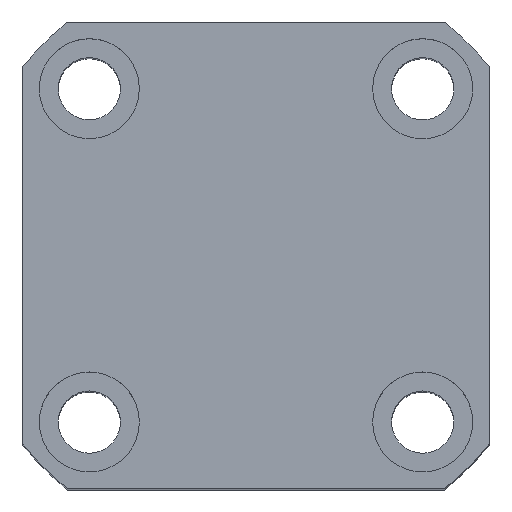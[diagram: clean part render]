
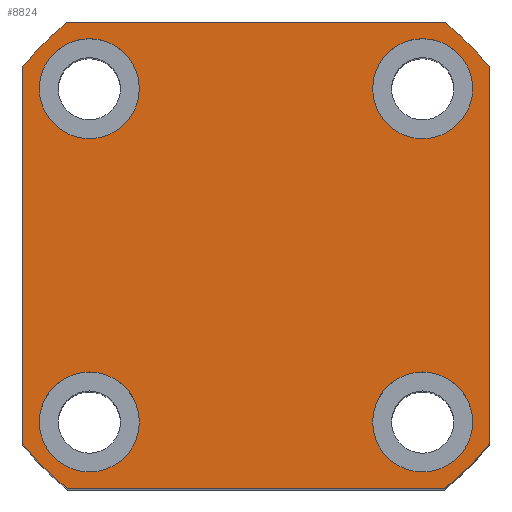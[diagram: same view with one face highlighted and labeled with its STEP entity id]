
A CAD part, top view. The second image highlights one B-rep face of the part: STEP entity #8824.
In plain terms, the highlighted planar face has unit normal (0, 0, 1).
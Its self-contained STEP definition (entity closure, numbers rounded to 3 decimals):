
#8 = ORIENTED_EDGE ( 'NONE', *, *, #11864, .T. ) ;
#24 = EDGE_LOOP ( 'NONE', ( #3933, #10117 ) ) ;
#28 = VERTEX_POINT ( 'NONE', #1340 ) ;
#86 = AXIS2_PLACEMENT_3D ( 'NONE', #7023, #567, #8080 ) ;
#204 = ORIENTED_EDGE ( 'NONE', *, *, #1187, .T. ) ;
#313 = DIRECTION ( 'NONE',  ( 0., 0., 1. ) ) ;
#316 = AXIS2_PLACEMENT_3D ( 'NONE', #5305, #12759, #6392 ) ;
#535 = CIRCLE ( 'NONE', #6977, 4.5 ) ;
#567 = DIRECTION ( 'NONE',  ( 0., 0., 1. ) ) ;
#621 = DIRECTION ( 'NONE',  ( 0., 1., 0. ) ) ;
#679 = ORIENTED_EDGE ( 'NONE', *, *, #7170, .T. ) ;
#691 = DIRECTION ( 'NONE',  ( 0., 0., 1. ) ) ;
#863 = EDGE_CURVE ( 'NONE', #12914, #13215, #13867, .T. ) ;
#1187 = EDGE_CURVE ( 'NONE', #9722, #4877, #12178, .T. ) ;
#1231 = ORIENTED_EDGE ( 'NONE', *, *, #13075, .T. ) ;
#1266 = DIRECTION ( 'NONE',  ( -1., 0., 0. ) ) ;
#1340 = CARTESIAN_POINT ( 'NONE',  ( -10.5, -14.998, 68. ) ) ;
#1438 = FACE_OUTER_BOUND ( 'NONE', #9782, .T. ) ;
#1549 = VERTEX_POINT ( 'NONE', #8845 ) ;
#1927 = LINE ( 'NONE', #13645, #7319 ) ;
#2081 = ORIENTED_EDGE ( 'NONE', *, *, #5208, .F. ) ;
#2184 = CARTESIAN_POINT ( 'NONE',  ( -21., 16.971, 68. ) ) ;
#2223 = CARTESIAN_POINT ( 'NONE',  ( 0., 0., 68. ) ) ;
#2485 = CARTESIAN_POINT ( 'NONE',  ( 0., 0., 68. ) ) ;
#2542 = AXIS2_PLACEMENT_3D ( 'NONE', #2223, #9726, #3312 ) ;
#2551 = EDGE_LOOP ( 'NONE', ( #2081, #3119 ) ) ;
#2568 = LINE ( 'NONE', #10304, #5124 ) ;
#2573 = ORIENTED_EDGE ( 'NONE', *, *, #6192, .F. ) ;
#2576 = PLANE ( 'NONE',  #4696 ) ;
#2617 = CARTESIAN_POINT ( 'NONE',  ( -21., 21., 68. ) ) ;
#2773 = CIRCLE ( 'NONE', #4522, 4.5 ) ;
#2854 = ORIENTED_EDGE ( 'NONE', *, *, #10016, .T. ) ;
#2883 = VERTEX_POINT ( 'NONE', #3992 ) ;
#3042 = EDGE_CURVE ( 'NONE', #28, #4852, #3468, .T. ) ;
#3119 = ORIENTED_EDGE ( 'NONE', *, *, #13334, .F. ) ;
#3310 = EDGE_CURVE ( 'NONE', #6309, #9722, #10697, .T. ) ;
#3312 = DIRECTION ( 'NONE',  ( 1., 0., 0. ) ) ;
#3432 = VECTOR ( 'NONE', #6403, 1000. ) ;
#3468 = CIRCLE ( 'NONE', #316, 4.5 ) ;
#3556 = DIRECTION ( 'NONE',  ( 1., 0., 0. ) ) ;
#3585 = ORIENTED_EDGE ( 'NONE', *, *, #3042, .F. ) ;
#3646 = CARTESIAN_POINT ( 'NONE',  ( 0., 0., 68. ) ) ;
#3713 = DIRECTION ( 'NONE',  ( 0., 0., 1. ) ) ;
#3797 = AXIS2_PLACEMENT_3D ( 'NONE', #11501, #5103, #12553 ) ;
#3912 = CARTESIAN_POINT ( 'NONE',  ( 0., 0., 68. ) ) ;
#3933 = ORIENTED_EDGE ( 'NONE', *, *, #863, .F. ) ;
#3992 = CARTESIAN_POINT ( 'NONE',  ( 10.5, 15., 68. ) ) ;
#4056 = DIRECTION ( 'NONE',  ( 1., 0., 0. ) ) ;
#4248 = DIRECTION ( 'NONE',  ( 0., 0., 1. ) ) ;
#4355 = FACE_BOUND ( 'NONE', #5262, .T. ) ;
#4379 = CIRCLE ( 'NONE', #5071, 27. ) ;
#4433 = CARTESIAN_POINT ( 'NONE',  ( -21., -16.971, 68. ) ) ;
#4522 = AXIS2_PLACEMENT_3D ( 'NONE', #6233, #13671, #7313 ) ;
#4696 = AXIS2_PLACEMENT_3D ( 'NONE', #3646, #11157, #4743 ) ;
#4743 = DIRECTION ( 'NONE',  ( 1., 0., 0. ) ) ;
#4852 = VERTEX_POINT ( 'NONE', #13348 ) ;
#4877 = VERTEX_POINT ( 'NONE', #8120 ) ;
#4909 = VERTEX_POINT ( 'NONE', #5093 ) ;
#4997 = DIRECTION ( 'NONE',  ( 1., 0., 0. ) ) ;
#5071 = AXIS2_PLACEMENT_3D ( 'NONE', #3912, #11398, #4997 ) ;
#5093 = CARTESIAN_POINT ( 'NONE',  ( -16.971, -21., 68. ) ) ;
#5101 = VERTEX_POINT ( 'NONE', #8132 ) ;
#5103 = DIRECTION ( 'NONE',  ( 0., 0., 1. ) ) ;
#5124 = VECTOR ( 'NONE', #621, 1000. ) ;
#5208 = EDGE_CURVE ( 'NONE', #1549, #5101, #2773, .T. ) ;
#5262 = EDGE_LOOP ( 'NONE', ( #3585, #7136 ) ) ;
#5305 = CARTESIAN_POINT ( 'NONE',  ( -15., -14.998, 68. ) ) ;
#5694 = EDGE_CURVE ( 'NONE', #4852, #28, #10838, .T. ) ;
#6192 = EDGE_CURVE ( 'NONE', #12015, #2883, #7789, .T. ) ;
#6233 = CARTESIAN_POINT ( 'NONE',  ( -15., 15.002, 68. ) ) ;
#6309 = VERTEX_POINT ( 'NONE', #9141 ) ;
#6335 = CARTESIAN_POINT ( 'NONE',  ( 16.971, -21., 68. ) ) ;
#6392 = DIRECTION ( 'NONE',  ( 1., 0., 0. ) ) ;
#6403 = DIRECTION ( 'NONE',  ( 0., -1., 0. ) ) ;
#6417 = AXIS2_PLACEMENT_3D ( 'NONE', #7156, #691, #8222 ) ;
#6490 = CIRCLE ( 'NONE', #2542, 27. ) ;
#6787 = CARTESIAN_POINT ( 'NONE',  ( 15., 15., 68. ) ) ;
#6866 = VECTOR ( 'NONE', #1266, 1000. ) ;
#6868 = EDGE_CURVE ( 'NONE', #2883, #12015, #10973, .T. ) ;
#6977 = AXIS2_PLACEMENT_3D ( 'NONE', #10638, #4248, #11704 ) ;
#7023 = CARTESIAN_POINT ( 'NONE',  ( 15., 15., 68. ) ) ;
#7136 = ORIENTED_EDGE ( 'NONE', *, *, #5694, .F. ) ;
#7156 = CARTESIAN_POINT ( 'NONE',  ( -15., -14.998, 68. ) ) ;
#7170 = EDGE_CURVE ( 'NONE', #12203, #13475, #4379, .T. ) ;
#7189 = FACE_BOUND ( 'NONE', #24, .T. ) ;
#7313 = DIRECTION ( 'NONE',  ( 1., 0., 0. ) ) ;
#7319 = VECTOR ( 'NONE', #4056, 1000. ) ;
#7472 = VERTEX_POINT ( 'NONE', #4433 ) ;
#7503 = AXIS2_PLACEMENT_3D ( 'NONE', #6787, #313, #7843 ) ;
#7674 = DIRECTION ( 'NONE',  ( 0., 0., 1. ) ) ;
#7708 = CARTESIAN_POINT ( 'NONE',  ( 15., -14.998, 68. ) ) ;
#7735 = DIRECTION ( 'NONE',  ( 1., 0., 0. ) ) ;
#7789 = CIRCLE ( 'NONE', #86, 4.5 ) ;
#7831 = EDGE_CURVE ( 'NONE', #13215, #12914, #8193, .T. ) ;
#7843 = DIRECTION ( 'NONE',  ( 1., 0., 0. ) ) ;
#8080 = DIRECTION ( 'NONE',  ( 1., 0., 0. ) ) ;
#8120 = CARTESIAN_POINT ( 'NONE',  ( -16.971, 21., 68. ) ) ;
#8132 = CARTESIAN_POINT ( 'NONE',  ( -19.5, 15.002, 68. ) ) ;
#8193 = CIRCLE ( 'NONE', #3797, 4.5 ) ;
#8222 = DIRECTION ( 'NONE',  ( 1., 0., 0. ) ) ;
#8562 = VERTEX_POINT ( 'NONE', #2184 ) ;
#8635 = CARTESIAN_POINT ( 'NONE',  ( 21., -16.971, 68. ) ) ;
#8824 = ADVANCED_FACE ( 'NONE', ( #10014, #4355, #7189, #13145, #1438 ), #2576, .T. ) ;
#8845 = CARTESIAN_POINT ( 'NONE',  ( -10.5, 15.002, 68. ) ) ;
#8957 = ORIENTED_EDGE ( 'NONE', *, *, #6868, .F. ) ;
#9141 = CARTESIAN_POINT ( 'NONE',  ( 21., 16.971, 68. ) ) ;
#9445 = ORIENTED_EDGE ( 'NONE', *, *, #12018, .T. ) ;
#9480 = CARTESIAN_POINT ( 'NONE',  ( 19.5, 15., 68. ) ) ;
#9573 = CARTESIAN_POINT ( 'NONE',  ( -21., 21., 68. ) ) ;
#9722 = VERTEX_POINT ( 'NONE', #10621 ) ;
#9726 = DIRECTION ( 'NONE',  ( 0., 0., 1. ) ) ;
#9782 = EDGE_LOOP ( 'NONE', ( #1231, #10457, #204, #10476, #9445, #2854, #8, #679 ) ) ;
#9984 = DIRECTION ( 'NONE',  ( 0., 0., 1. ) ) ;
#10014 = FACE_BOUND ( 'NONE', #2551, .T. ) ;
#10016 = EDGE_CURVE ( 'NONE', #7472, #4909, #10157, .T. ) ;
#10117 = ORIENTED_EDGE ( 'NONE', *, *, #7831, .F. ) ;
#10136 = CARTESIAN_POINT ( 'NONE',  ( 0., 0., 68. ) ) ;
#10157 = CIRCLE ( 'NONE', #12490, 27. ) ;
#10304 = CARTESIAN_POINT ( 'NONE',  ( 21., 21., 68. ) ) ;
#10457 = ORIENTED_EDGE ( 'NONE', *, *, #3310, .T. ) ;
#10476 = ORIENTED_EDGE ( 'NONE', *, *, #11458, .T. ) ;
#10621 = CARTESIAN_POINT ( 'NONE',  ( 16.971, 21., 68. ) ) ;
#10638 = CARTESIAN_POINT ( 'NONE',  ( -15., 15.002, 68. ) ) ;
#10697 = CIRCLE ( 'NONE', #12543, 27. ) ;
#10838 = CIRCLE ( 'NONE', #6417, 4.5 ) ;
#10973 = CIRCLE ( 'NONE', #7503, 4.5 ) ;
#11157 = DIRECTION ( 'NONE',  ( 0., 0., 1. ) ) ;
#11217 = DIRECTION ( 'NONE',  ( 1., 0., 0. ) ) ;
#11398 = DIRECTION ( 'NONE',  ( 0., 0., 1. ) ) ;
#11431 = EDGE_LOOP ( 'NONE', ( #2573, #8957 ) ) ;
#11458 = EDGE_CURVE ( 'NONE', #4877, #8562, #6490, .T. ) ;
#11501 = CARTESIAN_POINT ( 'NONE',  ( 15., -14.998, 68. ) ) ;
#11704 = DIRECTION ( 'NONE',  ( 1., 0., 0. ) ) ;
#11864 = EDGE_CURVE ( 'NONE', #4909, #12203, #1927, .T. ) ;
#11970 = LINE ( 'NONE', #9573, #3432 ) ;
#11993 = AXIS2_PLACEMENT_3D ( 'NONE', #7708, #7674, #7735 ) ;
#12015 = VERTEX_POINT ( 'NONE', #9480 ) ;
#12018 = EDGE_CURVE ( 'NONE', #8562, #7472, #11970, .T. ) ;
#12102 = CARTESIAN_POINT ( 'NONE',  ( 19.5, -14.998, 68. ) ) ;
#12178 = LINE ( 'NONE', #2617, #6866 ) ;
#12203 = VERTEX_POINT ( 'NONE', #6335 ) ;
#12490 = AXIS2_PLACEMENT_3D ( 'NONE', #2485, #9984, #3556 ) ;
#12543 = AXIS2_PLACEMENT_3D ( 'NONE', #10136, #3713, #11217 ) ;
#12553 = DIRECTION ( 'NONE',  ( 1., 0., 0. ) ) ;
#12759 = DIRECTION ( 'NONE',  ( 0., 0., 1. ) ) ;
#12914 = VERTEX_POINT ( 'NONE', #12102 ) ;
#13075 = EDGE_CURVE ( 'NONE', #13475, #6309, #2568, .T. ) ;
#13145 = FACE_BOUND ( 'NONE', #11431, .T. ) ;
#13215 = VERTEX_POINT ( 'NONE', #13635 ) ;
#13334 = EDGE_CURVE ( 'NONE', #5101, #1549, #535, .T. ) ;
#13348 = CARTESIAN_POINT ( 'NONE',  ( -19.5, -14.998, 68. ) ) ;
#13475 = VERTEX_POINT ( 'NONE', #8635 ) ;
#13635 = CARTESIAN_POINT ( 'NONE',  ( 10.5, -14.998, 68. ) ) ;
#13645 = CARTESIAN_POINT ( 'NONE',  ( -21., -21., 68. ) ) ;
#13671 = DIRECTION ( 'NONE',  ( 0., 0., 1. ) ) ;
#13867 = CIRCLE ( 'NONE', #11993, 4.5 ) ;
